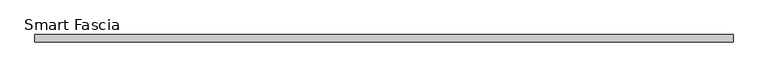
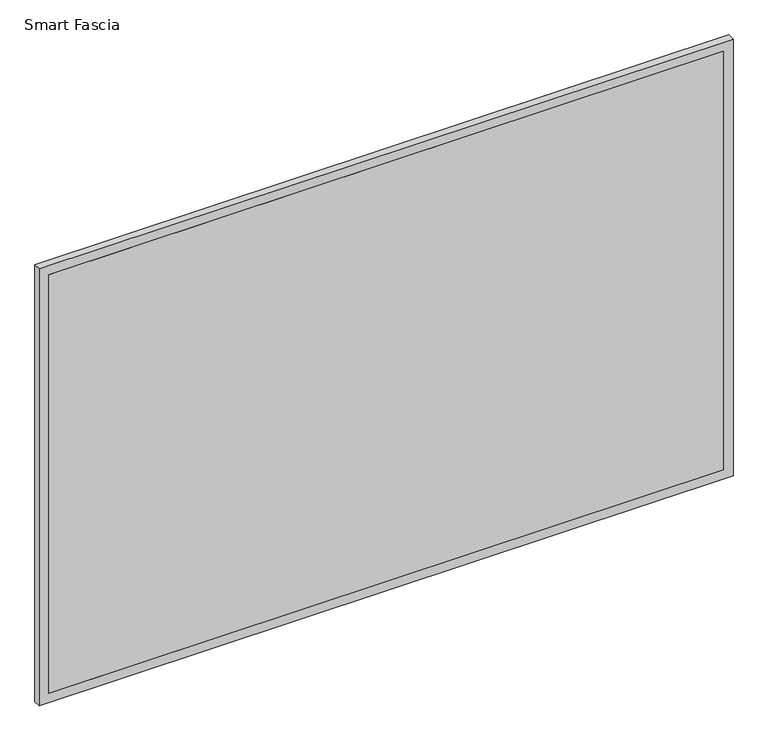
"""IFC4 building model written with IfcOpenShell, lengths in millimetres: proxy geometry, Panel-Fascia-Teknion-Altos-Smart : Smart Fascia."""

from ifc_helpers import new_model, si_unit, frame, origin, place, context, project, spatial, polyline, outline, extrude, source, transform, mapped, element, save


def smart_fascia_73ffb3d4(model_context):
    return source(origin(), model_context, "Body", "SweptSolid", [
        extrude(outline(polyline([(3.175, 1108.1018999), (1216.025, 1108.1018999), (1216.025, -714.3481001), (3.175, -714.3481001), (3.175, 1108.1018999)]), holes=[polyline([(1190.625, 1082.7018999), (28.575, 1082.7018999), (28.575, -688.9481001), (1190.625, -688.9481001), (1190.625, 1082.7018999)])]), frame((0.0, -19.05, 0.0), z_axis=(0.0, 1.0, 0.0), x_axis=(0.0, 0.0, 1.0)), (0.0, 0.0, 1.0), 19.05),
        extrude(outline(polyline([(1082.7018999, -19.05), (-688.9481001, -19.05), (-688.9481001, 0.0), (1082.7018999, 0.0), (1082.7018999, -19.05)])), frame((0.0, 0.0, 28.575), z_axis=(0.0, 0.0, 1.0), x_axis=(1.0, 0.0, 0.0)), (0.0, 0.0, 1.0), 1162.05),
    ])


if __name__ == "__main__":
    model = new_model("IFC4")
    model_context = context("Model", 3, world=origin())
    ifc_project = project(units=[si_unit("LENGTHUNIT", "METRE", prefix="MILLI")], contexts=[model_context])
    site = spatial("IfcSite", under=ifc_project)
    building = spatial("IfcBuilding", under=site)
    placement = place(None, origin())
    smart_fascia_shape = smart_fascia_73ffb3d4(model_context)
    element("IfcBuildingElementProxy", 1, Name="Panel-Fascia-Teknion-Altos-Smart : Smart Fascia", ObjectType="Panel-Fascia-Teknion-Altos-Smart : Smart Fascia", at=placement, inside=building, context=model_context, shape_type="MappedRepresentation", body=[
        mapped(smart_fascia_shape, transform((0.0, 0.0, 0.0), x_axis=(1.0, 0.0, 0.0), y_axis=(0.0, 1.0, 0.0), z_axis=(0.0, 0.0, 1.0))),
    ])
    save(model, "model.ifc")
